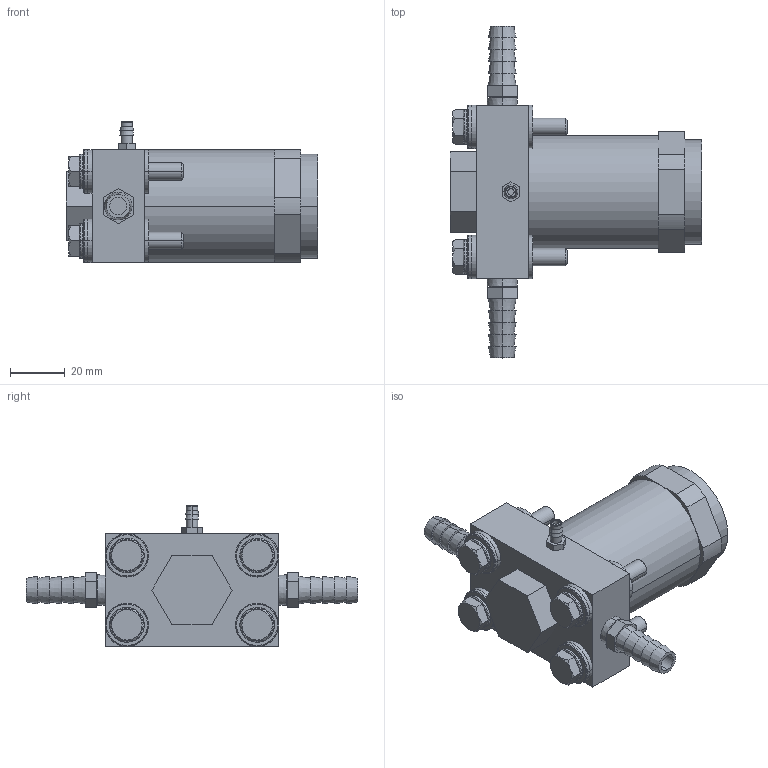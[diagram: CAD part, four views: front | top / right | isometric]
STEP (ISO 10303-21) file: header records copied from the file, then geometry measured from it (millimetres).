
FILE_DESCRIPTION((''),'2;1');
FILE_NAME('UK4_ASM','2017-08-24T',('jennifer.elliott'),('CenterLine (Windsor) Ltd - Automation Components Division'),'PRO/ENGINEER BY PARAMETRIC TECHNOLOGY CORPORATION, 2015030','PRO/ENGINEER BY PARAMETRIC TECHNOLOGY CORPORATION, 2015030','');
FILE_SCHEMA(('AUTOMOTIVE_DESIGN { 1 0 10303 214 1 1 1 1 }'));
Length unit declared in the file: inch
Products named in the file (30): PRT0498; PRT0499; PRT0500; PRT0501; PRT0502; PRT0503; PRT0504; PRT0505; PRT0506; TMP_DWG-3DSOLID_41_ASM; PRT0507; PRT0508; PRT0509; PRT0510; PRT0511; PRT0512; PRT0513; PRT0514; PRT0515; PRT0516; PRT0517; PRT0518; PRT0519; PRT0520; PRT0521; PRT0522; PRT0523; PRT0524; PRT0525; UK4_ASM
Assembly tree (29 placements, depth 3):
  UK4_ASM
    PRT0498
    PRT0499
    PRT0500
    PRT0501
    PRT0502
    TMP_DWG-3DSOLID_41_ASM
      PRT0503
      PRT0504
      PRT0505
      PRT0506
    PRT0507
    PRT0508
    PRT0509
    PRT0510
    PRT0511
    PRT0512
    PRT0513
    PRT0514
    PRT0515
    PRT0516
    PRT0517
    PRT0518
    PRT0519
    PRT0520
    PRT0521
    PRT0522
    PRT0523
    PRT0524
    PRT0525
Bounding box: 92.08 x 121.41 x 51.59 mm (x, y, z)
Volume: 150845 mm3; surface area: 46574 mm2
Topology: 28 solids, 28 shells, 327 faces, 736 edges, 486 vertices
Faces by surface type: plane 147, cylinder 92, cone 60, torus 28
Entity records: 11514 total; most frequent: CARTESIAN_POINT 2149, DIRECTION 1786, ORIENTED_EDGE 1472, AXIS2_PLACEMENT_3D 748, EDGE_CURVE 736, VERTEX_POINT 486, EDGE_LOOP 378, CIRCLE 358
